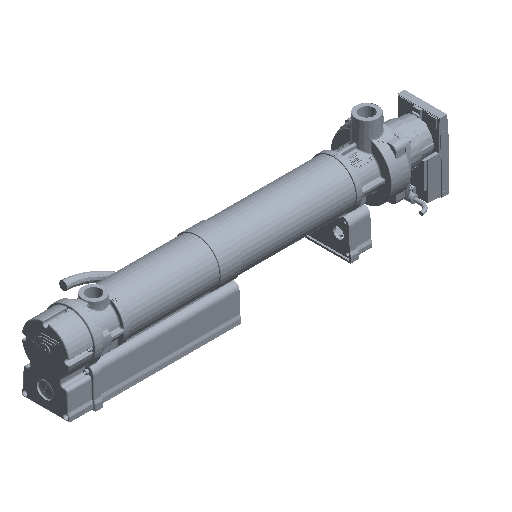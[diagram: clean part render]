
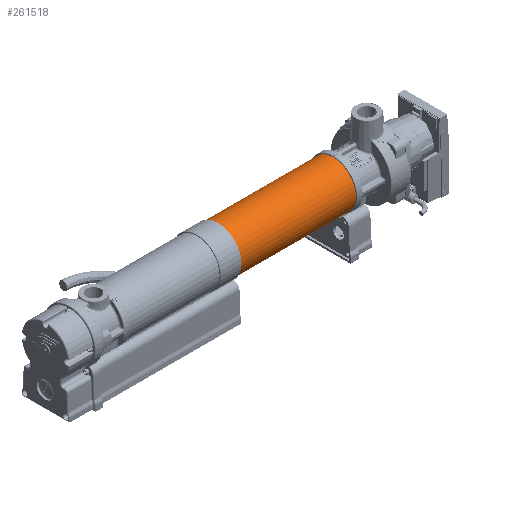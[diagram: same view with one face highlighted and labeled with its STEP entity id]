
A CAD part, isometric view. The second image highlights one B-rep face of the part: STEP entity #261518.
In plain terms, the highlighted cylindrical face has radius 37.5 mm (diameter 75 mm), a partial arc.
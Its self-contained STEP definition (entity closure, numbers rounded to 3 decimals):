
#8511 = VERTEX_POINT ( 'NONE', #124149 ) ;
#19395 = CARTESIAN_POINT ( 'NONE',  ( -37.357, 3.268, 55.171 ) ) ;
#24486 = DIRECTION ( 'NONE',  ( 0., 0., -1. ) ) ;
#28201 = CARTESIAN_POINT ( 'NONE',  ( -37.357, 3.268, 55.171 ) ) ;
#31796 = ORIENTED_EDGE ( 'NONE', *, *, #182233, .T. ) ;
#38386 = ORIENTED_EDGE ( 'NONE', *, *, #232123, .F. ) ;
#49295 = AXIS2_PLACEMENT_3D ( 'NONE', #115299, #84046, #52860 ) ;
#50701 = LINE ( 'NONE', #19395, #296618 ) ;
#52860 = DIRECTION ( 'NONE',  ( -1., 0., 0. ) ) ;
#55737 = CARTESIAN_POINT ( 'NONE',  ( 0., 0., -133.829 ) ) ;
#62251 = FACE_OUTER_BOUND ( 'NONE', #123739, .T. ) ;
#64739 = DIRECTION ( 'NONE',  ( 0., 0., 1. ) ) ;
#76205 = ORIENTED_EDGE ( 'NONE', *, *, #207639, .T. ) ;
#84046 = DIRECTION ( 'NONE',  ( 0., 0., -1. ) ) ;
#92820 = VECTOR ( 'NONE', #64739, 1000. ) ;
#95939 = CARTESIAN_POINT ( 'NONE',  ( -37.5, 0., 55.171 ) ) ;
#114506 = VERTEX_POINT ( 'NONE', #146608 ) ;
#115299 = CARTESIAN_POINT ( 'NONE',  ( 0., 0., 55.171 ) ) ;
#118877 = CARTESIAN_POINT ( 'NONE',  ( -37.5, 0., -133.829 ) ) ;
#119971 = VERTEX_POINT ( 'NONE', #118877 ) ;
#123739 = EDGE_LOOP ( 'NONE', ( #224014, #76205, #31796, #38386 ) ) ;
#124149 = CARTESIAN_POINT ( 'NONE',  ( -37.5, 0., 55.171 ) ) ;
#125222 = AXIS2_PLACEMENT_3D ( 'NONE', #221335, #190060, #158902 ) ;
#127234 = LINE ( 'NONE', #95939, #92820 ) ;
#133110 = CYLINDRICAL_SURFACE ( 'NONE', #125222, 37.5 ) ;
#146608 = CARTESIAN_POINT ( 'NONE',  ( -37.357, 3.268, -133.829 ) ) ;
#158902 = DIRECTION ( 'NONE',  ( -1., 0., 0. ) ) ;
#182233 = EDGE_CURVE ( 'NONE', #245507, #8511, #194459, .T. ) ;
#190060 = DIRECTION ( 'NONE',  ( 0., 0., -1. ) ) ;
#194459 = CIRCLE ( 'NONE', #49295, 37.5 ) ;
#207639 = EDGE_CURVE ( 'NONE', #114506, #245507, #50701, .T. ) ;
#212768 = CIRCLE ( 'NONE', #223544, 37.5 ) ;
#221335 = CARTESIAN_POINT ( 'NONE',  ( 0., 0., -122.404 ) ) ;
#223544 = AXIS2_PLACEMENT_3D ( 'NONE', #55737, #24486, #298251 ) ;
#224014 = ORIENTED_EDGE ( 'NONE', *, *, #260716, .F. ) ;
#232123 = EDGE_CURVE ( 'NONE', #119971, #8511, #127234, .T. ) ;
#245507 = VERTEX_POINT ( 'NONE', #28201 ) ;
#260716 = EDGE_CURVE ( 'NONE', #114506, #119971, #212768, .T. ) ;
#261518 = ADVANCED_FACE ( 'NONE', ( #62251 ), #133110, .T. ) ;
#293232 = DIRECTION ( 'NONE',  ( 0., 0., 1. ) ) ;
#296618 = VECTOR ( 'NONE', #293232, 1000. ) ;
#298251 = DIRECTION ( 'NONE',  ( -1., 0., 0. ) ) ;
